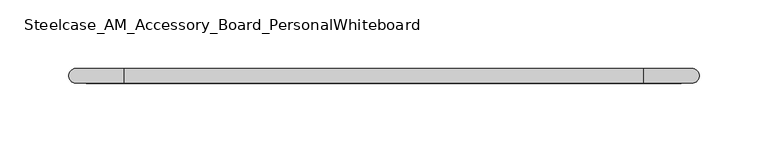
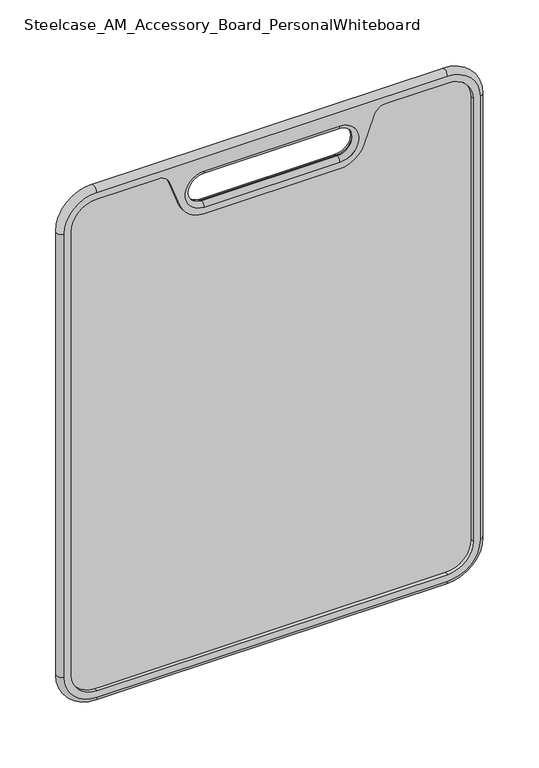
"""IFC4 building model written with IfcOpenShell, lengths in millimetres: furniture geometry, Steelcase_AM_Accessory_Board_PersonalWhiteboard : 18H x 23W."""

from ifc_helpers import new_model, si_unit, point, frame, frame_2d, origin, place, context, project, spatial, polyline, circle_curve, ellipse_curve, trimmed, segment, composite_curve, outline, extrude, source, transform, mapped, element, save
from ifc_brep_helpers import plane_surface, cylinder_surface, revolved_surface, advanced_brep


def steelcase_am_accessory_board_personalwhiteboard_660ad885(model_context):
    return source(origin(), model_context, "Body", "SolidModel", [
        extrude(outline(composite_curve([segment(polyline([(632.2822, -232.8540781), (127.3302, -232.8540781)]), True, "CONTINUOUS"), segment(trimmed(circle_curve(frame_2d((127.3302, -205.4220781)), 27.432), [point((127.3302, -232.8540781))], [point((99.8982, -205.4220781))], False, "CARTESIAN"), True, "CONTINUOUS"), segment(polyline([(99.8982, -205.4220781), (99.8982, 172.5299219)]), True, "CONTINUOUS"), segment(trimmed(circle_curve(frame_2d((127.3302, 172.5299219)), 27.432), [point((99.8982, 172.5299219))], [point((127.3302, 199.9619219))], False, "CARTESIAN"), True, "CONTINUOUS"), segment(polyline([(127.3302, 199.9619219), (632.2822, 199.9619219)]), True, "CONTINUOUS"), segment(trimmed(circle_curve(frame_2d((632.2822, 172.5299219)), 27.432), [point((632.2822, 199.9619219))], [point((659.7142, 172.5299219))], False, "CARTESIAN"), True, "CONTINUOUS"), segment(polyline([(659.7142, 172.5299219), (659.7142, 106.9922978)]), True, "CONTINUOUS"), segment(trimmed(circle_curve(frame_2d((645.4902, 106.9922978)), 14.224), [point((659.7142, 106.9922978))], [point((650.3550945, 93.62611))], False, "CARTESIAN"), True, "CONTINUOUS"), segment(polyline([(650.3550945, 93.62611), (621.0317206, 82.9532747)]), True, "CONTINUOUS"), segment(trimmed(circle_curve(frame_2d((630.6312, 56.5789219)), 28.067), [point((621.0317206, 82.9532747))], [point((602.5642, 56.5789219))], True, "CARTESIAN"), True, "CONTINUOUS"), segment(polyline([(602.5642, 56.5789219), (602.5642, -89.4710781)]), True, "CONTINUOUS"), segment(trimmed(circle_curve(frame_2d((630.6312, -89.4710781)), 28.067), [point((602.5642, -89.4710781))], [point((621.0317206, -115.8454309))], True, "CARTESIAN"), True, "CONTINUOUS"), segment(polyline([(621.0317206, -115.8454309), (650.3550945, -126.5182661)]), True, "CONTINUOUS"), segment(trimmed(circle_curve(frame_2d((645.4902, -139.884454)), 14.224), [point((650.3550945, -126.5182661))], [point((659.7142, -139.884454))], False, "CARTESIAN"), True, "CONTINUOUS"), segment(polyline([(659.7142, -139.884454), (659.7142, -205.4220781)]), True, "CONTINUOUS"), segment(trimmed(circle_curve(frame_2d((632.2822, -205.4220781)), 27.432), [point((659.7142, -205.4220781))], [point((632.2822, -232.8540781))], False, "CARTESIAN"), True, "CONTINUOUS")], self_intersect=False)), frame((0.0, -65.5955, 0.0), z_axis=(0.0, 1.0, 0.0), x_axis=(0.0, 0.0, 1.0)), (0.0, 0.0, 1.0), 2.667),
        advanced_brep(
        [(-240.4740781, -69.596, 127.3302), (-205.4220781, -69.596, 92.2782), (172.5299219, -69.596, 92.2782), (207.5819219, -69.596, 127.3302), (207.5819219, -69.596, 632.2822), (172.5299219, -69.596, 667.3342), (-205.4220781, -69.596, 667.3342), (-240.4740781, -69.596, 632.2822), (-139.884454, -69.596, 659.7142), (-126.5182661, -69.596, 650.3550945), (-115.8454309, -69.596, 621.0317206), (-89.4710781, -69.596, 602.5642), (56.5789219, -69.596, 602.5642), (82.9532747, -69.596, 621.0317206), (93.62611, -69.596, 650.3550945), (106.9922978, -69.596, 659.7142), (172.5299219, -69.596, 659.7142), (199.9619219, -69.596, 632.2822), (199.9619219, -69.596, 127.3302), (172.5299219, -69.596, 99.8982), (-205.4220781, -69.596, 99.8982), (-232.8540781, -69.596, 127.3302), (-232.8540781, -69.596, 632.2822), (-205.4220781, -69.596, 659.7142), (56.5789219, -69.596, 651.0782), (56.5789219, -69.596, 610.1842), (-89.4710781, -69.596, 610.1842), (-89.4710781, -69.596, 651.0782), (-205.4220781, -58.928, 92.2782), (-240.4740781, -58.928, 127.3302), (-240.4740781, -58.928, 632.2822), (-205.4220781, -58.928, 667.3342), (172.5299219, -58.928, 667.3342), (207.5819219, -58.928, 632.2822), (207.5819219, -58.928, 127.3302), (172.5299219, -58.928, 92.2782), (106.9922978, -58.928, 659.7142), (93.62611, -58.928, 650.3550945), (82.9532747, -58.928, 621.0317206), (56.5789219, -58.928, 602.5642), (-89.4710781, -58.928, 602.5642), (-115.8454309, -58.928, 621.0317206), (-126.5182661, -58.928, 650.3550945), (-139.884454, -58.928, 659.7142), (-205.4220781, -58.928, 659.7142), (-232.8540781, -58.928, 632.2822), (-232.8540781, -58.928, 127.3302), (-205.4220781, -58.928, 99.8982), (172.5299219, -58.928, 99.8982), (199.9619219, -58.928, 127.3302), (199.9619219, -58.928, 632.2822), (172.5299219, -58.928, 659.7142), (56.5789219, -58.928, 610.1842), (56.5789219, -58.928, 651.0782), (-89.4710781, -58.928, 651.0782), (-89.4710781, -58.928, 610.1842), (56.5789219, -63.5, 614.7562), (56.5789219, -63.5, 646.5062), (56.5789219, -65.024, 614.7562), (56.5789219, -65.024, 646.5062), (-89.4710781, -63.5, 614.7562), (-89.4710781, -65.024, 614.7562), (-89.4710781, -63.5, 646.5062), (-89.4710781, -65.024, 646.5062)],
        [
            (0, 1, circle_curve(frame((-205.4220781, -69.596, 127.3302), z_axis=(0.0, -1.0, 0.0), x_axis=(-1.0, 0.0, 0.0)), 35.052)),
            (1, 2),
            (2, 3, circle_curve(frame((172.5299219, -69.596, 127.3302), z_axis=(0.0, -1.0, 0.0), x_axis=(0.0, 0.0, -1.0)), 35.052)),
            (3, 4),
            (4, 5, circle_curve(frame((172.5299219, -69.596, 632.2822), z_axis=(0.0, -1.0, 0.0), x_axis=(1.0, 0.0, 0.0)), 35.052)),
            (5, 6),
            (6, 7, circle_curve(frame((-205.4220781, -69.596, 632.2822), z_axis=(0.0, -1.0, 0.0), x_axis=(0.0, 0.0, 1.0)), 35.052)),
            (7, 0),
            (8, 9, circle_curve(frame((-139.884454, -69.596, 645.4902), z_axis=(0.0, 1.0, 0.0), x_axis=(1.0, 0.0, 0.0)), 14.224)),
            (9, 10),
            (10, 11, circle_curve(frame((-89.4710781, -69.596, 630.6312), z_axis=(0.0, -1.0, 0.0), x_axis=(1.0, 0.0, 0.0)), 28.067)),
            (11, 12),
            (12, 13, circle_curve(frame((56.5789219, -69.596, 630.6312), z_axis=(0.0, -1.0, 0.0), x_axis=(1.0, 0.0, 0.0)), 28.067)),
            (13, 14),
            (14, 15, circle_curve(frame((106.9922978, -69.596, 645.4902), z_axis=(0.0, 1.0, 0.0), x_axis=(1.0, 0.0, 0.0)), 14.224)),
            (15, 16),
            (16, 17, circle_curve(frame((172.5299219, -69.596, 632.2822), z_axis=(0.0, 1.0, 0.0), x_axis=(1.0, 0.0, 0.0)), 27.432)),
            (17, 18),
            (18, 19, circle_curve(frame((172.5299219, -69.596, 127.3302), z_axis=(0.0, 1.0, 0.0), x_axis=(0.0, 0.0, -1.0)), 27.432)),
            (19, 20),
            (20, 21, circle_curve(frame((-205.4220781, -69.596, 127.3302), z_axis=(0.0, 1.0, 0.0), x_axis=(-1.0, 0.0, 0.0)), 27.432)),
            (21, 22),
            (22, 23, circle_curve(frame((-205.4220781, -69.596, 632.2822), z_axis=(0.0, 1.0, 0.0), x_axis=(0.0, 0.0, 1.0)), 27.432)),
            (23, 8),
            (24, 25, circle_curve(frame((56.5789219, -69.596, 630.6312), z_axis=(0.0, 1.0, 0.0), x_axis=(0.0, 0.0, 1.0)), 20.447)),
            (25, 26),
            (26, 27, circle_curve(frame((-89.4710781, -69.596, 630.6312), z_axis=(0.0, 1.0, 0.0), x_axis=(0.0, 0.0, -1.0)), 20.447)),
            (27, 24),
            (28, 29, circle_curve(frame((-205.4220781, -58.928, 127.3302), z_axis=(0.0, 1.0, 0.0), x_axis=(-1.0, 0.0, 0.0)), 35.052)),
            (29, 30),
            (30, 31, circle_curve(frame((-205.4220781, -58.928, 632.2822), z_axis=(0.0, 1.0, 0.0), x_axis=(0.0, 0.0, 1.0)), 35.052)),
            (31, 32),
            (32, 33, circle_curve(frame((172.5299219, -58.928, 632.2822), z_axis=(0.0, 1.0, 0.0), x_axis=(1.0, 0.0, 0.0)), 35.052)),
            (33, 34),
            (34, 35, circle_curve(frame((172.5299219, -58.928, 127.3302), z_axis=(0.0, 1.0, 0.0), x_axis=(0.0, 0.0, -1.0)), 35.052)),
            (35, 28),
            (36, 37, circle_curve(frame((106.9922978, -58.928, 645.4902), z_axis=(0.0, -1.0, 0.0), x_axis=(1.0, 0.0, 0.0)), 14.224)),
            (37, 38),
            (38, 39, circle_curve(frame((56.5789219, -58.928, 630.6312), z_axis=(0.0, 1.0, 0.0), x_axis=(1.0, 0.0, 0.0)), 28.067)),
            (39, 40),
            (40, 41, circle_curve(frame((-89.4710781, -58.928, 630.6312), z_axis=(0.0, 1.0, 0.0), x_axis=(1.0, 0.0, 0.0)), 28.067)),
            (41, 42),
            (42, 43, circle_curve(frame((-139.884454, -58.928, 645.4902), z_axis=(0.0, -1.0, 0.0), x_axis=(1.0, 0.0, 0.0)), 14.224)),
            (43, 44),
            (44, 45, circle_curve(frame((-205.4220781, -58.928, 632.2822), z_axis=(0.0, -1.0, 0.0), x_axis=(0.0, 0.0, 1.0)), 27.432)),
            (45, 46),
            (46, 47, circle_curve(frame((-205.4220781, -58.928, 127.3302), z_axis=(0.0, -1.0, 0.0), x_axis=(-1.0, 0.0, 0.0)), 27.432)),
            (47, 48),
            (48, 49, circle_curve(frame((172.5299219, -58.928, 127.3302), z_axis=(0.0, -1.0, 0.0), x_axis=(0.0, 0.0, -1.0)), 27.432)),
            (49, 50),
            (50, 51, circle_curve(frame((172.5299219, -58.928, 632.2822), z_axis=(0.0, -1.0, 0.0), x_axis=(1.0, 0.0, 0.0)), 27.432)),
            (51, 36),
            (52, 53, circle_curve(frame((56.5789219, -58.928, 630.6312), z_axis=(0.0, -1.0, 0.0), x_axis=(0.0, 0.0, 1.0)), 20.447)),
            (53, 54),
            (54, 55, circle_curve(frame((-89.4710781, -58.928, 630.6312), z_axis=(0.0, -1.0, 0.0), x_axis=(0.0, 0.0, -1.0)), 20.447)),
            (55, 52),
            (8, 43),
            (42, 9),
            (41, 10),
            (40, 11),
            (39, 12),
            (38, 13),
            (37, 14),
            (36, 15),
            (52, 56, circle_curve(frame((56.5789219, -63.5, 610.1842), z_axis=(1.0, 0.0, 0.0), x_axis=(0.0, 1.0, 0.0)), 4.572)),
            (56, 57, circle_curve(frame((56.5789219, -63.5, 630.6312), z_axis=(0.0, -1.0, 0.0), x_axis=(0.0, 0.0, 1.0)), 15.875)),
            (57, 53, circle_curve(frame((56.5789219, -63.5, 651.0782), z_axis=(1.0, 0.0, 0.0), x_axis=(0.0, 1.0, 0.0)), 4.572)),
            (58, 25, circle_curve(frame((56.5789219, -65.024, 610.1842), z_axis=(1.0, 0.0, 0.0), x_axis=(0.0, 1.0, 0.0)), 4.572)),
            (24, 59, circle_curve(frame((56.5789219, -65.024, 651.0782), z_axis=(1.0, 0.0, 0.0), x_axis=(0.0, 1.0, 0.0)), 4.572)),
            (59, 58, circle_curve(frame((56.5789219, -65.024, 630.6312), z_axis=(0.0, 1.0, 0.0), x_axis=(0.0, 0.0, 1.0)), 15.875)),
            (56, 58),
            (59, 57),
            (55, 60, circle_curve(frame((-89.4710781, -63.5, 610.1842), z_axis=(1.0, 0.0, 0.0), x_axis=(0.0, 1.0, 0.0)), 4.572)),
            (60, 56),
            (58, 61),
            (61, 26, circle_curve(frame((-89.4710781, -65.024, 610.1842), z_axis=(1.0, 0.0, 0.0), x_axis=(0.0, 1.0, 0.0)), 4.572)),
            (60, 61),
            (54, 62, circle_curve(frame((-89.4710781, -63.5, 651.0782), z_axis=(-1.0, 0.0, 0.0), x_axis=(0.0, 1.0, 0.0)), 4.572)),
            (62, 60, circle_curve(frame((-89.4710781, -63.5, 630.6312), z_axis=(0.0, -1.0, 0.0), x_axis=(0.0, 0.0, -1.0)), 15.875)),
            (61, 63, circle_curve(frame((-89.4710781, -65.024, 630.6312), z_axis=(0.0, 1.0, 0.0), x_axis=(0.0, 0.0, -1.0)), 15.875)),
            (63, 27, circle_curve(frame((-89.4710781, -65.024, 651.0782), z_axis=(-1.0, 0.0, 0.0), x_axis=(0.0, 1.0, 0.0)), 4.572)),
            (62, 63),
            (57, 62),
            (63, 59),
            (0, 29, circle_curve(frame((-240.4740781, -64.262, 127.3302), z_axis=(0.0, 0.0, -1.0), x_axis=(1.0, 0.0, 0.0)), 5.334)),
            (28, 1, circle_curve(frame((-205.4220781, -64.262, 92.2782), z_axis=(-1.0, 0.0, 0.0), x_axis=(0.0, 0.0, 1.0)), 5.334)),
            (46, 21),
            (20, 47),
            (35, 2, circle_curve(frame((172.5299219, -64.262, 92.2782), z_axis=(-1.0, 0.0, 0.0), x_axis=(0.0, 0.0, 1.0)), 5.334)),
            (19, 48),
            (34, 3, circle_curve(frame((207.5819219, -64.262, 127.3302), z_axis=(0.0, 0.0, -1.0), x_axis=(-1.0, 0.0, 0.0)), 5.334)),
            (18, 49),
            (33, 4, circle_curve(frame((207.5819219, -64.262, 632.2822), z_axis=(0.0, 0.0, -1.0), x_axis=(-1.0, 0.0, 0.0)), 5.334)),
            (17, 50),
            (32, 5, circle_curve(frame((172.5299219, -64.262, 667.3342), z_axis=(1.0, 0.0, 0.0), x_axis=(0.0, 0.0, -1.0)), 5.334)),
            (16, 51),
            (31, 6, circle_curve(frame((-205.4220781, -64.262, 667.3342), z_axis=(1.0, 0.0, 0.0), x_axis=(0.0, 0.0, -1.0)), 5.334)),
            (23, 44),
            (30, 7, circle_curve(frame((-240.4740781, -64.262, 632.2822), z_axis=(0.0, 0.0, 1.0), x_axis=(1.0, 0.0, 0.0)), 5.334)),
            (22, 45),
        ],
        [
            plane_surface(frame((-139.884454, -69.596, 659.7142), z_axis=(0.0, -1.0, 0.0), x_axis=(-1.0, 0.0, 0.0))),
            plane_surface(frame((-139.884454, -58.928, 659.7142), z_axis=(0.0, 1.0, 0.0), x_axis=(1.0, 0.0, 0.0))),
            revolved_surface(polyline([(-125.660454, -58.928, 645.4902), (-125.660454, -69.596, 645.4902)]), (-139.884454, -58.928, 645.4902), (0.0, 1.0, 0.0)),
            plane_surface(frame((-126.5182661, -69.596, 650.3550945), z_axis=(-0.939692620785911, 0.0, -0.3420201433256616), x_axis=(0.0, 1.0, 0.0))),
            cylinder_surface(frame((-89.4710781, -58.928, 630.6312), z_axis=(0.0, -1.0, 0.0), x_axis=(1.0, 0.0, 0.0)), 28.067),
            plane_surface(frame((-89.4710781, -69.596, 602.5642), z_axis=(0.0, 0.0, -1.0), x_axis=(0.0, 1.0, 0.0))),
            cylinder_surface(frame((56.5789219, -58.928, 630.6312), z_axis=(0.0, -1.0, 0.0), x_axis=(1.0, 0.0, 0.0)), 28.067),
            plane_surface(frame((82.9532747, -69.596, 621.0317206), z_axis=(0.939692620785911, 0.0, -0.34202014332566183), x_axis=(0.0, 1.0, 0.0))),
            revolved_surface(polyline([(121.2162978, -58.928, 645.4902), (121.2162978, -69.596, 645.4902)]), (106.9922978, -58.928, 645.4902), (0.0, 1.0, 0.0)),
            revolved_surface(trimmed(ellipse_curve(frame((56.5789219, -63.5, 651.0782), z_axis=(-1.0, 0.0, 0.0), x_axis=(0.0, 1.0, 0.0)), 4.572, 4.572), [point((56.5789219, -58.928, 651.0782))], [point((56.5789219, -63.5, 646.5062))], True, "CARTESIAN"), (56.5789219, -63.5, 630.6312), (0.0, 1.0, 0.0)),
            revolved_surface(trimmed(ellipse_curve(frame((56.5789219, -65.024, 651.0782), z_axis=(-1.0, 0.0, 0.0), x_axis=(0.0, 1.0, 0.0)), 4.572, 4.572), [point((56.5789219, -65.024, 646.5062))], [point((56.5789219, -69.596, 651.0782))], True, "CARTESIAN"), (56.5789219, -63.5, 630.6312), (0.0, 1.0, 0.0)),
            revolved_surface(polyline([(56.5789219, -63.5, 646.5062), (56.5789219, -65.024, 646.5062)]), (56.5789219, -63.5, 630.6312), (0.0, 1.0, 0.0)),
            cylinder_surface(frame((56.5789219, -63.5, 610.1842), z_axis=(-1.0, 0.0, 0.0), x_axis=(0.0, 1.0, 0.0)), 4.572),
            cylinder_surface(frame((56.5789219, -65.024, 610.1842), z_axis=(-1.0, 0.0, 0.0), x_axis=(0.0, 1.0, 0.0)), 4.572),
            plane_surface(frame((56.5789219, -65.024, 614.7562), z_axis=(0.0, 0.0, 1.0), x_axis=(-1.0, 0.0, 0.0))),
            revolved_surface(trimmed(ellipse_curve(frame((-89.4710781, -63.5, 610.1842), z_axis=(1.0, 0.0, 0.0), x_axis=(0.0, 1.0, 0.0)), 4.572, 4.572), [point((-89.4710781, -58.928, 610.1842))], [point((-89.4710781, -63.5, 614.7562))], True, "CARTESIAN"), (-89.4710781, -63.5, 630.6312), (0.0, 1.0, 0.0)),
            revolved_surface(trimmed(ellipse_curve(frame((-89.4710781, -65.024, 610.1842), z_axis=(1.0, 0.0, 0.0), x_axis=(0.0, 1.0, 0.0)), 4.572, 4.572), [point((-89.4710781, -65.024, 614.7562))], [point((-89.4710781, -69.596, 610.1842))], True, "CARTESIAN"), (-89.4710781, -63.5, 630.6312), (0.0, 1.0, 0.0)),
            revolved_surface(polyline([(-89.4710781, -63.5, 614.7562), (-89.4710781, -65.024, 614.7562)]), (-89.4710781, -63.5, 630.6312), (0.0, 1.0, 0.0)),
            cylinder_surface(frame((-89.4710781, -63.5, 651.0782), z_axis=(1.0, 0.0, 0.0), x_axis=(0.0, 1.0, 0.0)), 4.572),
            cylinder_surface(frame((-89.4710781, -65.024, 651.0782), z_axis=(1.0, 0.0, 0.0), x_axis=(0.0, 1.0, 0.0)), 4.572),
            plane_surface(frame((-89.4710781, -65.024, 646.5062), z_axis=(0.0, 0.0, -1.0), x_axis=(1.0, 0.0, 0.0))),
            revolved_surface(trimmed(ellipse_curve(frame((-240.4740781, -64.262, 127.3302), z_axis=(0.0, 0.0, 1.0), x_axis=(1.0, 0.0, 0.0)), 5.334, 5.334), [point((-240.4740781, -58.928, 127.3302))], [point((-240.4740781, -69.596, 127.3302))], True, "CARTESIAN"), (-205.4220781, -63.5, 127.3302), (0.0, -1.0, 0.0)),
            revolved_surface(polyline([(-232.85407809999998, -69.596, 127.3302), (-232.85407809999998, -58.928, 127.3302)]), (-205.4220781, -63.5, 127.3302), (0.0, -1.0, 0.0)),
            cylinder_surface(frame((-205.4220781, -64.262, 92.2782), z_axis=(-1.0, 0.0, 0.0), x_axis=(0.0, 0.0, 1.0)), 5.334),
            plane_surface(frame((-205.4220781, -69.596, 99.8982), z_axis=(0.0, 0.0, 1.0), x_axis=(1.0, 0.0, 0.0))),
            revolved_surface(trimmed(ellipse_curve(frame((172.5299219, -64.262, 92.2782), z_axis=(-1.0, 0.0, 0.0), x_axis=(0.0, 0.0, 1.0)), 5.334, 5.334), [point((172.5299219, -58.928, 92.2782))], [point((172.5299219, -69.596, 92.2782))], True, "CARTESIAN"), (172.5299219, -63.5, 127.3302), (0.0, -1.0, 0.0)),
            revolved_surface(polyline([(172.5299219, -69.596, 99.8982), (172.5299219, -58.928, 99.8982)]), (172.5299219, -63.5, 127.3302), (0.0, -1.0, 0.0)),
            cylinder_surface(frame((207.5819219, -64.262, 127.3302), z_axis=(0.0, 0.0, -1.0), x_axis=(-1.0, 0.0, 0.0)), 5.334),
            plane_surface(frame((199.9619219, -69.596, 127.3302), z_axis=(-1.0, 0.0, 0.0), x_axis=(0.0, 0.0, 1.0))),
            revolved_surface(trimmed(ellipse_curve(frame((207.5819219, -64.262, 632.2822), z_axis=(0.0, 0.0, -1.0), x_axis=(-1.0, 0.0, 0.0)), 5.334, 5.334), [point((207.5819219, -58.928, 632.2822))], [point((207.5819219, -69.596, 632.2822))], True, "CARTESIAN"), (172.5299219, -63.5, 632.2822), (0.0, -1.0, 0.0)),
            revolved_surface(polyline([(199.9619219, -69.596, 632.2822), (199.9619219, -58.928, 632.2822)]), (172.5299219, -63.5, 632.2822), (0.0, -1.0, 0.0)),
            cylinder_surface(frame((172.5299219, -64.262, 667.3342), z_axis=(1.0, 0.0, 0.0), x_axis=(0.0, 0.0, -1.0)), 5.334),
            plane_surface(frame((172.5299219, -69.596, 659.7142), z_axis=(0.0, 0.0, -1.0), x_axis=(-1.0, 0.0, 0.0))),
            revolved_surface(trimmed(ellipse_curve(frame((-205.4220781, -64.262, 667.3342), z_axis=(1.0, 0.0, 0.0), x_axis=(0.0, 0.0, -1.0)), 5.334, 5.334), [point((-205.4220781, -58.928, 667.3342))], [point((-205.4220781, -69.596, 667.3342))], True, "CARTESIAN"), (-205.4220781, -63.5, 632.2822), (0.0, -1.0, 0.0)),
            revolved_surface(polyline([(-205.4220781, -69.596, 659.7142), (-205.4220781, -58.928, 659.7142)]), (-205.4220781, -63.5, 632.2822), (0.0, -1.0, 0.0)),
            cylinder_surface(frame((-240.4740781, -64.262, 632.2822), z_axis=(0.0, 0.0, 1.0), x_axis=(1.0, 0.0, 0.0)), 5.334),
            plane_surface(frame((-232.8540781, -69.596, 632.2822), z_axis=(1.0, 0.0, 0.0), x_axis=(0.0, 0.0, -1.0))),
        ],
        [
            (0, [[1, 2, 3, 4, 5, 6, 7, 8], [9, 10, 11, 12, 13, 14, 15, 16, 17, 18, 19, 20, 21, 22, 23, 24], [25, 26, 27, 28]]),
            (1, [[29, 30, 31, 32, 33, 34, 35, 36], [37, 38, 39, 40, 41, 42, 43, 44, 45, 46, 47, 48, 49, 50, 51, 52], [53, 54, 55, 56]]),
            (2, [[-9, 57, -43, 58]]),
            (3, [[-10, -58, -42, 59]]),
            (4, [[-11, -59, -41, 60]]),
            (5, [[-12, -60, -40, 61]]),
            (6, [[-13, -61, -39, 62]]),
            (7, [[-14, -62, -38, 63]]),
            (8, [[-15, -63, -37, 64]]),
            (9, [[65, 66, 67, -53]]),
            (10, [[68, -25, 69, 70]]),
            (11, [[-66, 71, -70, 72]]),
            (12, [[-65, -56, 73, 74]]),
            (13, [[-68, 75, 76, -26]]),
            (14, [[-71, -74, 77, -75]]),
            (15, [[-73, -55, 78, 79]]),
            (16, [[-76, 80, 81, -27]]),
            (17, [[-77, -79, 82, -80]]),
            (18, [[-67, 83, -78, -54]]),
            (19, [[-69, -28, -81, 84]]),
            (20, [[-72, -84, -82, -83]]),
            (21, [[-1, 85, -29, 86]]),
            (22, [[-47, 87, -21, 88]]),
            (23, [[-86, -36, 89, -2]]),
            (24, [[-88, -20, 90, -48]]),
            (25, [[-89, -35, 91, -3]]),
            (26, [[-90, -19, 92, -49]]),
            (27, [[-91, -34, 93, -4]]),
            (28, [[-92, -18, 94, -50]]),
            (29, [[-93, -33, 95, -5]]),
            (30, [[-94, -17, 96, -51]]),
            (31, [[-95, -32, 97, -6]]),
            (32, [[-96, -16, -64, -52]]),
            (32, [[98, -44, -57, -24]]),
            (33, [[-97, -31, 99, -7]]),
            (34, [[-98, -23, 100, -45]]),
            (35, [[-85, -8, -99, -30]]),
            (36, [[-87, -46, -100, -22]]),
        ],
    ),
    ])


if __name__ == "__main__":
    model = new_model("IFC4")
    model_context = context("Model", 3, world=origin())
    ifc_project = project(units=[si_unit("LENGTHUNIT", "METRE", prefix="MILLI")], contexts=[model_context])
    site = spatial("IfcSite", under=ifc_project)
    building = spatial("IfcBuilding", under=site)
    placement = place(None, origin())
    steelcase_am_accessory_board_personalwhiteboard_shape = steelcase_am_accessory_board_personalwhiteboard_660ad885(model_context)
    element("IfcFurniture", 1, ObjectType="Steelcase_AM_Accessory_Board_PersonalWhiteboard : 18H x 23W", at=placement, inside=building, context=model_context, shape_type="MappedRepresentation", body=[
        mapped(steelcase_am_accessory_board_personalwhiteboard_shape, transform((0.0, 0.0, 0.0), x_axis=(1.0, 0.0, 0.0), y_axis=(0.0, 1.0, 0.0), z_axis=(0.0, 0.0, 1.0))),
    ])
    save(model, "model.ifc")
